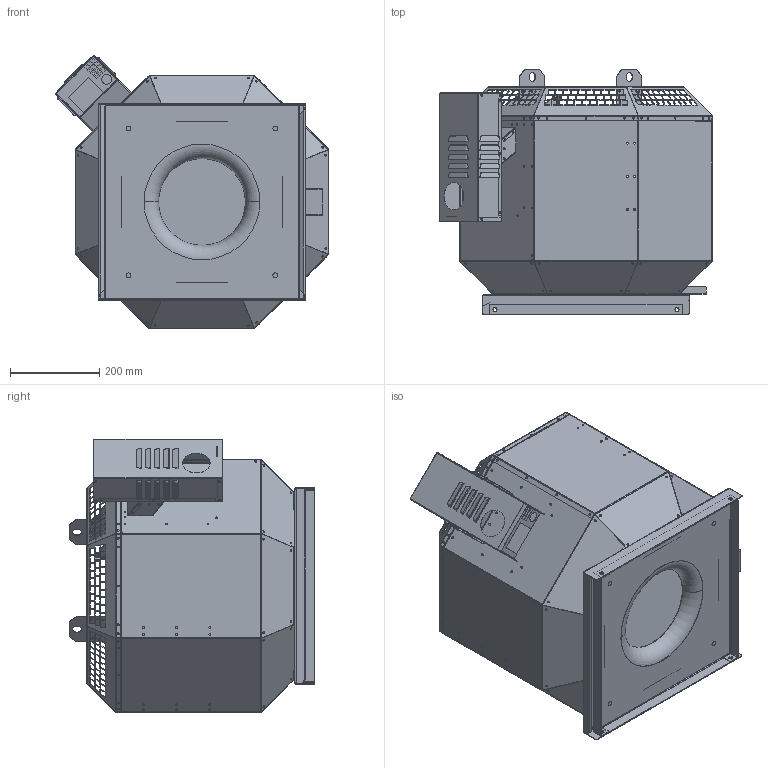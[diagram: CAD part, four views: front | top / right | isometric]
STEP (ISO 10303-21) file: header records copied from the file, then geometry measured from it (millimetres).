
FILE_DESCRIPTION (( 'STEP AP203' ), '1' );
FILE_NAME ('144879-01_DVN315D430_step.step', '2018-08-10T07:09:01', ( '' ), ( '' ), 'SwSTEP 2.0', 'SolidWorks 2017', '' );
FILE_SCHEMA (( 'CONFIG_CONTROL_DESIGN' ));
Products named in the file (2): 144879-01_DVN315D430_step
Bounding box: 613.75 x 550.51 x 613.75 mm (x, y, z)
Surface area: 3098322.5 mm2 (no closed solid volume)
Topology: 0 solids, 51 shells, 1410 faces, 8213 edges, 6295 vertices
Faces by surface type: plane 1019, cylinder 315, bspline 72, torus 4
Entity records: 96919 total; most frequent: CARTESIAN_POINT 33354, DIRECTION 11752, ORIENTED_EDGE 11099, EDGE_CURVE 8213, LINE 6510, VECTOR 6510, VERTEX_POINT 6295, EDGE_LOOP 2924
